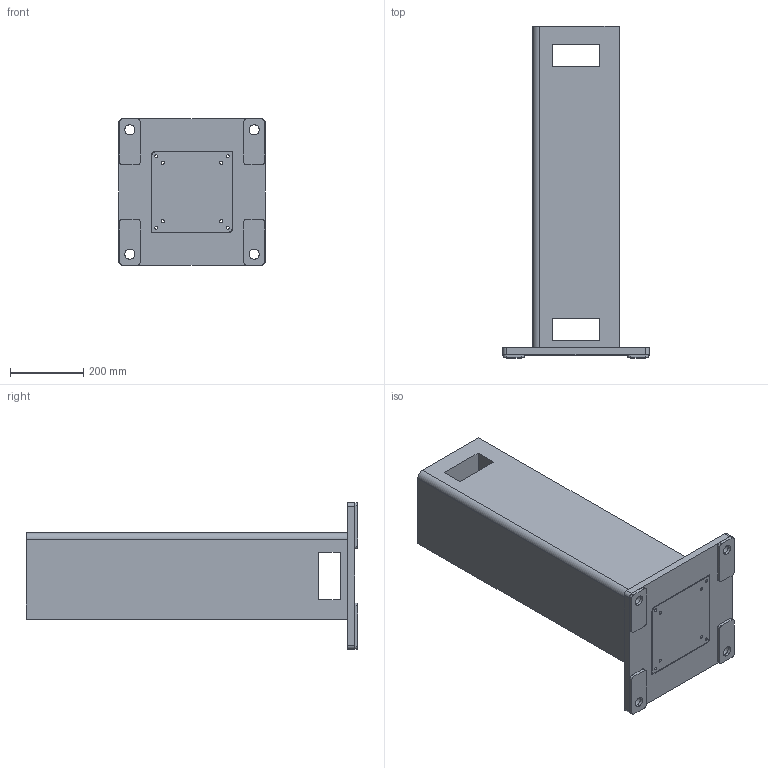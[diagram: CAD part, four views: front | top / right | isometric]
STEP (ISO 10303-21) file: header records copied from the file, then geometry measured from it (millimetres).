
FILE_DESCRIPTION (( 'STEP AP214' ), '1' );
FILE_NAME ('Robotersockel_900mm_153560~a.STEP', '2016-07-06T13:59:03', ( '-' ), ( 'Yaskawa Europe GmbH' ), 'SwSTEP 2.0', 'SolidWorks 2016', '' );
FILE_SCHEMA (( 'AUTOMOTIVE_DESIGN' ));
Length unit declared in the file: millimetre
Products named in the file (1): Robotersockel_900mm_153560~a
Bounding box: 400 x 908 x 400 mm (x, y, z)
Volume: 47279040.8 mm3; surface area: 1621774.9 mm2
Topology: 5 solids, 5 shells, 145 faces, 394 edges, 260 vertices
Faces by surface type: cylinder 86, plane 59
Entity records: 5853 total; most frequent: DIRECTION 834, CARTESIAN_POINT 824, ORIENTED_EDGE 788, EDGE_CURVE 394, AXIS2_PLACEMENT_3D 302, VERTEX_POINT 260, LINE 230, VECTOR 230
